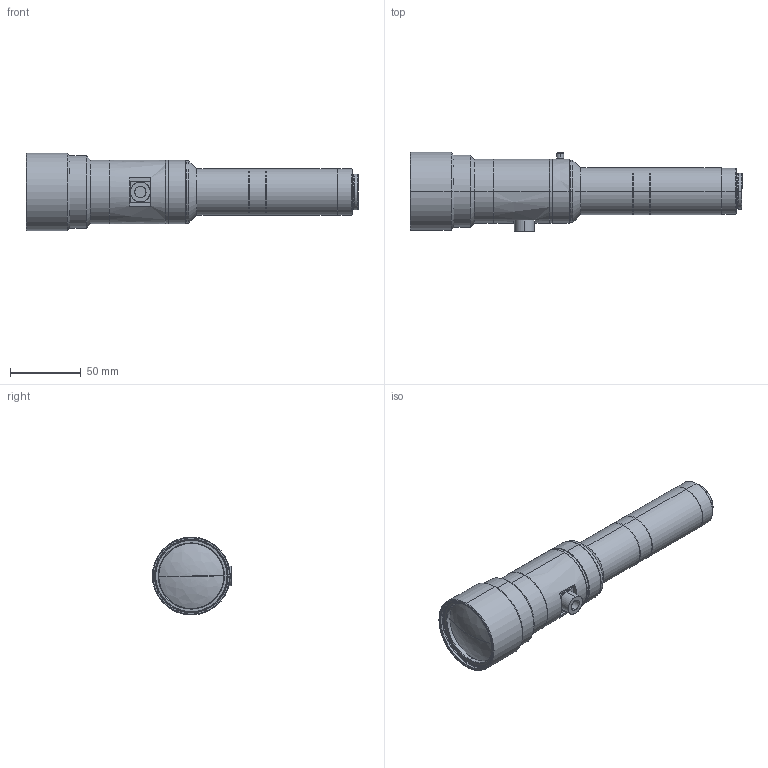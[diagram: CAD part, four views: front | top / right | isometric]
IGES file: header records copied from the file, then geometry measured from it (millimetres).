
Start section: SolidWorks IGES file using analytic representation for surfaces
Bounding box: 234.47 x 56 x 55 mm (x, y, z)
Surface area: 38853.6 mm2 (no closed solid volume)
Topology: 0 solids, 0 shells, 170 faces, 2509 edges, 2507 vertices
Faces by surface type: revolution 140, bspline 30
